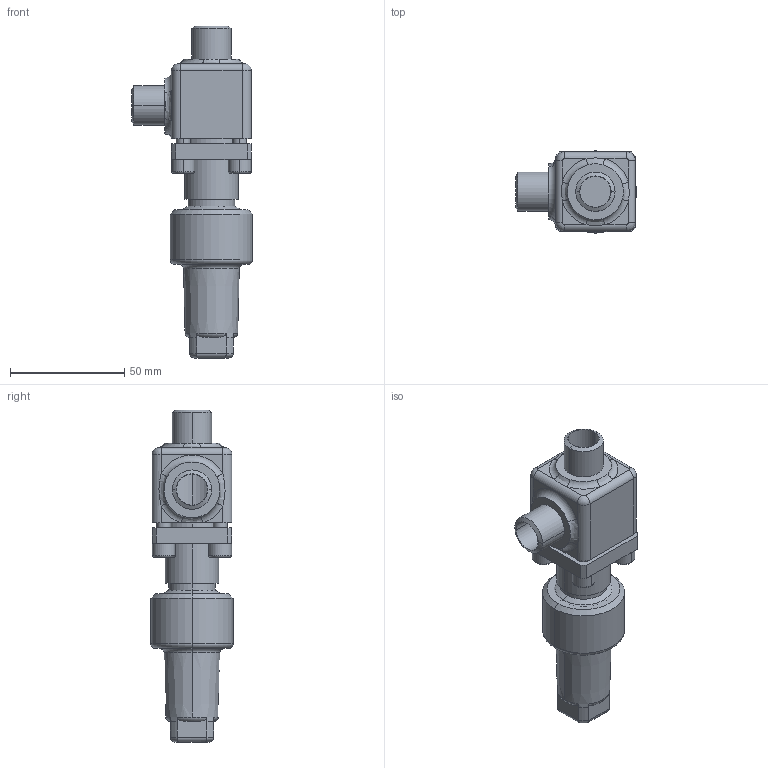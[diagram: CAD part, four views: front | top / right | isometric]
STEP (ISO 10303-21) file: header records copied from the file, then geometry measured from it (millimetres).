
FILE_DESCRIPTION (( 'STEP AP214' ), '1' );
FILE_NAME ('HRAR92400-DN010_R1_PS40.STEP', '2006-05-02T07:29:10', ( 'Herr Grams' ), ( 'AWP GmbH' ), 'SwSTEP 2.0', 'SolidWorks 2002296', '' );
FILE_SCHEMA (( 'AUTOMOTIVE_DESIGN' ));
Length unit declared in the file: millimetre
Products named in the file (6): HRAR92400-DN010_R1_PS40; Gehäuse96400E08-DN10_PS40_R1_Standard; AVR96300E10_Deck+Schr-DN6-15_Standard; Deckel96300E10-DN6-15_PS40_Standard; Zylinderschraube-DIN912_M 6x 18; Kappe96300E10_DN6-20_Standard
Assembly tree (8 placements, depth 3):
  HRAR92400-DN010_R1_PS40
    AVR96300E10_Deck+Schr-DN6-15_Standard
      Deckel96300E10-DN6-15_PS40_Standard
      Zylinderschraube-DIN912_M 6x 18  x4
    Kappe96300E10_DN6-20_Standard
    Gehäuse96400E08-DN10_PS40_R1_Standard
Bounding box: 53 x 36 x 145.5 mm (x, y, z)
Volume: 90422.9 mm3; surface area: 31681.2 mm2
Topology: 7 solids, 7 shells, 231 faces, 512 edges, 315 vertices
Faces by surface type: cylinder 84, plane 82, torus 34, cone 24, bspline 7
Entity records: 10120 total; most frequent: CARTESIAN_POINT 5356, DIRECTION 934, ORIENTED_EDGE 796, EDGE_CURVE 398, AXIS2_PLACEMENT_3D 392, VERTEX_POINT 243, CIRCLE 210, EDGE_LOOP 203
